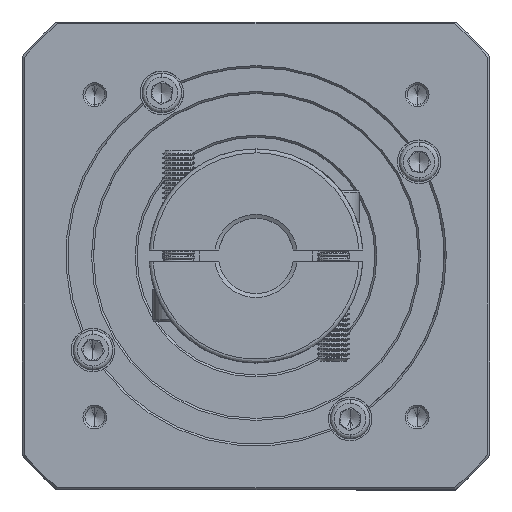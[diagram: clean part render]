
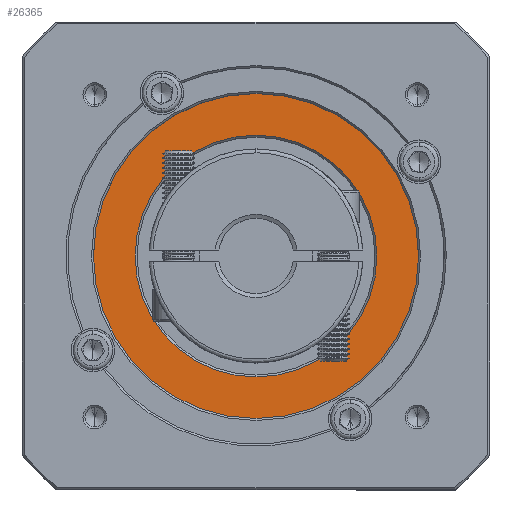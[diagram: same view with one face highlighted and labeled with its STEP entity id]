
A CAD part, top view. The second image highlights one B-rep face of the part: STEP entity #26365.
In plain terms, the highlighted planar face has unit normal (0, 0, 1).
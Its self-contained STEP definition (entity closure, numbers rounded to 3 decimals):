
#1058 = VERTEX_POINT ( 'NONE', #68573 ) ;
#2102 = DIRECTION ( 'NONE',  ( 0., 0., -1. ) ) ;
#6463 = CARTESIAN_POINT ( 'NONE',  ( 45.519, 118.379, 110.958 ) ) ;
#9598 = ORIENTED_EDGE ( 'NONE', *, *, #97421, .T. ) ;
#13718 = CARTESIAN_POINT ( 'NONE',  ( 45.519, 118.379, 110.958 ) ) ;
#15180 = CIRCLE ( 'NONE', #39915, 30.5 ) ;
#19984 = FACE_BOUND ( 'NONE', #42194, .T. ) ;
#21318 = DIRECTION ( 'NONE',  ( 0., 1., 0. ) ) ;
#21803 = EDGE_CURVE ( 'NONE', #83359, #1058, #15180, .T. ) ;
#25694 = CIRCLE ( 'NONE', #102484, 41. ) ;
#26365 = ADVANCED_FACE ( 'NONE', ( #106003, #19984 ), #100489, .T. ) ;
#30890 = AXIS2_PLACEMENT_3D ( 'NONE', #81864, #2102, #21318 ) ;
#31261 = CIRCLE ( 'NONE', #42291, 41. ) ;
#36521 = CARTESIAN_POINT ( 'NONE',  ( 45.519, 148.879, 110.958 ) ) ;
#36587 = ORIENTED_EDGE ( 'NONE', *, *, #42957, .T. ) ;
#39915 = AXIS2_PLACEMENT_3D ( 'NONE', #46764, #96620, #77709 ) ;
#42023 = DIRECTION ( 'NONE',  ( 0., 0., 1. ) ) ;
#42194 = EDGE_LOOP ( 'NONE', ( #87160, #9598 ) ) ;
#42291 = AXIS2_PLACEMENT_3D ( 'NONE', #6463, #125388, #55720 ) ;
#42957 = EDGE_CURVE ( 'NONE', #100712, #60474, #25694, .T. ) ;
#46764 = CARTESIAN_POINT ( 'NONE',  ( 45.519, 118.379, 110.958 ) ) ;
#55720 = DIRECTION ( 'NONE',  ( 0., 1., 0. ) ) ;
#57412 = CARTESIAN_POINT ( 'NONE',  ( 45.519, 118.379, 110.958 ) ) ;
#59531 = EDGE_CURVE ( 'NONE', #60474, #100712, #31261, .T. ) ;
#60474 = VERTEX_POINT ( 'NONE', #83558 ) ;
#64769 = DIRECTION ( 'NONE',  ( 0., 1., 0. ) ) ;
#68573 = CARTESIAN_POINT ( 'NONE',  ( 45.519, 87.879, 110.958 ) ) ;
#77709 = DIRECTION ( 'NONE',  ( 0., 1., 0. ) ) ;
#81864 = CARTESIAN_POINT ( 'NONE',  ( 45.519, 118.379, 110.958 ) ) ;
#83359 = VERTEX_POINT ( 'NONE', #36521 ) ;
#83558 = CARTESIAN_POINT ( 'NONE',  ( 45.519, 159.379, 110.958 ) ) ;
#87160 = ORIENTED_EDGE ( 'NONE', *, *, #21803, .T. ) ;
#94138 = AXIS2_PLACEMENT_3D ( 'NONE', #13718, #42023, #64769 ) ;
#96620 = DIRECTION ( 'NONE',  ( 0., 0., -1. ) ) ;
#97421 = EDGE_CURVE ( 'NONE', #1058, #83359, #126053, .T. ) ;
#100489 = PLANE ( 'NONE',  #94138 ) ;
#100712 = VERTEX_POINT ( 'NONE', #101849 ) ;
#101849 = CARTESIAN_POINT ( 'NONE',  ( 45.519, 77.379, 110.958 ) ) ;
#102484 = AXIS2_PLACEMENT_3D ( 'NONE', #57412, #105510, #125330 ) ;
#105510 = DIRECTION ( 'NONE',  ( 0., 0., 1. ) ) ;
#106003 = FACE_OUTER_BOUND ( 'NONE', #116518, .T. ) ;
#112154 = ORIENTED_EDGE ( 'NONE', *, *, #59531, .T. ) ;
#116518 = EDGE_LOOP ( 'NONE', ( #112154, #36587 ) ) ;
#125330 = DIRECTION ( 'NONE',  ( 0., 1., 0. ) ) ;
#125388 = DIRECTION ( 'NONE',  ( 0., 0., 1. ) ) ;
#126053 = CIRCLE ( 'NONE', #30890, 30.5 ) ;
